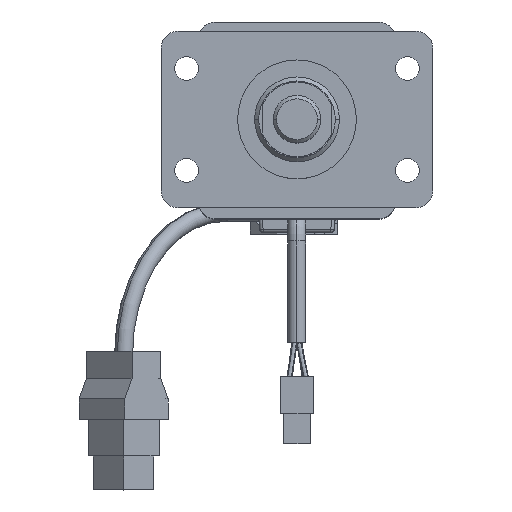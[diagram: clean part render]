
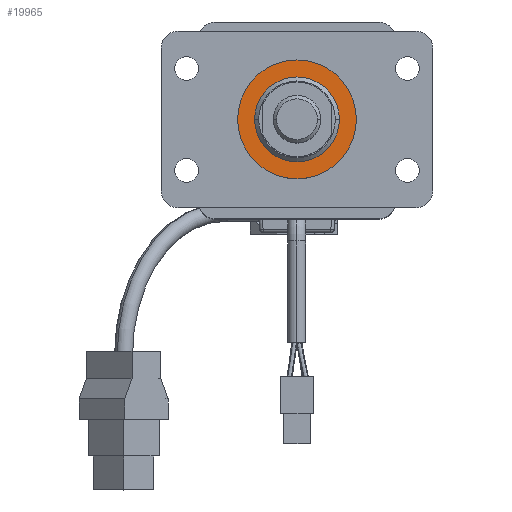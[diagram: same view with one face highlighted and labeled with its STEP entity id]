
A CAD part, top view. The second image highlights one B-rep face of the part: STEP entity #19965.
In plain terms, the highlighted planar face has unit normal (0, 0, 1).
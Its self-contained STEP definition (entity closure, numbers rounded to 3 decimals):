
#1647 = ORIENTED_EDGE ( 'NONE', *, *, #13510, .T. ) ;
#1821 = CIRCLE ( 'NONE', #10877, 17.5 ) ;
#2688 = AXIS2_PLACEMENT_3D ( 'NONE', #11123, #5923, #4603 ) ;
#2724 = VERTEX_POINT ( 'NONE', #15967 ) ;
#4603 = DIRECTION ( 'NONE',  ( 1., 0., 0. ) ) ;
#5756 = CARTESIAN_POINT ( 'NONE',  ( 17.5, 0., 185. ) ) ;
#5813 = DIRECTION ( 'NONE',  ( 1., 0., 0. ) ) ;
#5923 = DIRECTION ( 'NONE',  ( 0., 0., 1. ) ) ;
#6385 = CARTESIAN_POINT ( 'NONE',  ( 0., 0., 185. ) ) ;
#7147 = CARTESIAN_POINT ( 'NONE',  ( -12.5, 0., 185. ) ) ;
#7549 = CIRCLE ( 'NONE', #2688, 17.5 ) ;
#8019 = AXIS2_PLACEMENT_3D ( 'NONE', #6385, #13316, #22122 ) ;
#8197 = VERTEX_POINT ( 'NONE', #5756 ) ;
#8590 = EDGE_LOOP ( 'NONE', ( #20934, #1647 ) ) ;
#9546 = DIRECTION ( 'NONE',  ( 0., 0., 1. ) ) ;
#9697 = CARTESIAN_POINT ( 'NONE',  ( 0., 0., 185. ) ) ;
#10505 = VERTEX_POINT ( 'NONE', #17198 ) ;
#10552 = CARTESIAN_POINT ( 'NONE',  ( 0., 0., 185. ) ) ;
#10877 = AXIS2_PLACEMENT_3D ( 'NONE', #10552, #19225, #15585 ) ;
#11123 = CARTESIAN_POINT ( 'NONE',  ( 0., 0., 185. ) ) ;
#11858 = PLANE ( 'NONE',  #14613 ) ;
#12266 = FACE_OUTER_BOUND ( 'NONE', #8590, .T. ) ;
#12551 = FACE_BOUND ( 'NONE', #22255, .T. ) ;
#13122 = CARTESIAN_POINT ( 'NONE',  ( 0., 0., 185. ) ) ;
#13125 = ORIENTED_EDGE ( 'NONE', *, *, #13757, .F. ) ;
#13259 = EDGE_CURVE ( 'NONE', #2724, #8197, #7549, .T. ) ;
#13316 = DIRECTION ( 'NONE',  ( 0., 0., 1. ) ) ;
#13510 = EDGE_CURVE ( 'NONE', #8197, #2724, #1821, .T. ) ;
#13757 = EDGE_CURVE ( 'NONE', #16694, #10505, #20641, .T. ) ;
#14512 = ORIENTED_EDGE ( 'NONE', *, *, #17464, .F. ) ;
#14613 = AXIS2_PLACEMENT_3D ( 'NONE', #9697, #9546, #14628 ) ;
#14628 = DIRECTION ( 'NONE',  ( 1., 0., 0. ) ) ;
#15585 = DIRECTION ( 'NONE',  ( 1., 0., 0. ) ) ;
#15967 = CARTESIAN_POINT ( 'NONE',  ( -17.5, 0., 185. ) ) ;
#16579 = DIRECTION ( 'NONE',  ( 0., 0., 1. ) ) ;
#16681 = CIRCLE ( 'NONE', #8019, 12.5 ) ;
#16694 = VERTEX_POINT ( 'NONE', #7147 ) ;
#17198 = CARTESIAN_POINT ( 'NONE',  ( 12.5, 0., 185. ) ) ;
#17464 = EDGE_CURVE ( 'NONE', #10505, #16694, #16681, .T. ) ;
#19225 = DIRECTION ( 'NONE',  ( 0., 0., 1. ) ) ;
#19965 = ADVANCED_FACE ( 'NONE', ( #12266, #12551 ), #11858, .T. ) ;
#20641 = CIRCLE ( 'NONE', #22148, 12.5 ) ;
#20934 = ORIENTED_EDGE ( 'NONE', *, *, #13259, .T. ) ;
#22122 = DIRECTION ( 'NONE',  ( 1., 0., 0. ) ) ;
#22148 = AXIS2_PLACEMENT_3D ( 'NONE', #13122, #16579, #5813 ) ;
#22255 = EDGE_LOOP ( 'NONE', ( #13125, #14512 ) ) ;
